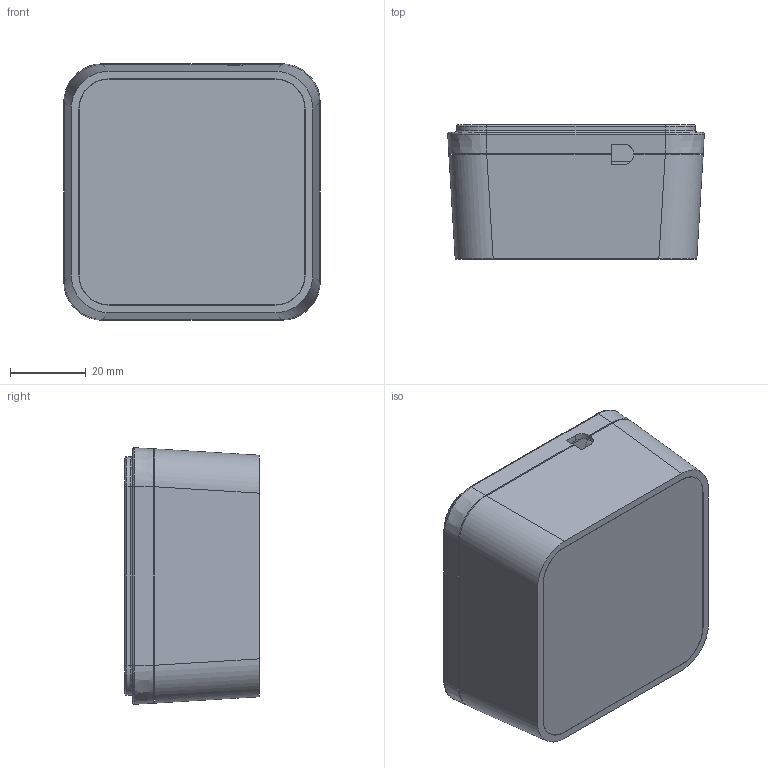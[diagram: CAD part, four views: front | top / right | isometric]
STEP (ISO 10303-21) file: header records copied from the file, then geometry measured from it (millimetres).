
FILE_DESCRIPTION((''),'2;1');
FILE_NAME('BARCODE_ASM','2019-02-14T',('Administrator'),(''),'PRO/ENGINEER BY PARAMETRIC TECHNOLOGY CORPORATION, 2009440','PRO/ENGINEER BY PARAMETRIC TECHNOLOGY CORPORATION, 2009440','');
FILE_SCHEMA(('CONFIG_CONTROL_DESIGN'));
Length unit declared in the file: millimetre
Products named in the file (7): TOP_COVER; PCB_BATON; BASE_COVER; PCB_A; PMMA; KEY_LABEL; BARCODE_ASM
Assembly tree (7 placements, depth 2):
  BARCODE_ASM
    TOP_COVER
    PCB_BATON  x2
    BASE_COVER
    PCB_A
    PMMA
    KEY_LABEL
Bounding box: 67.61 x 35.35 x 67.61 mm (x, y, z)
Volume: 51899.6 mm3; surface area: 57667.3 mm2
Topology: 7 solids, 7 shells, 588 faces, 1947 edges, 1645 vertices
Faces by surface type: plane 329, cylinder 155, bspline 49, extrusion 24, cone 16, torus 15
Entity records: 23786 total; most frequent: CARTESIAN_POINT 7891, DIRECTION 3272, ORIENTED_EDGE 2976, EDGE_CURVE 1488, VECTOR 1220, LINE 1196, AXIS2_PLACEMENT_3D 1026, VERTEX_POINT 960
